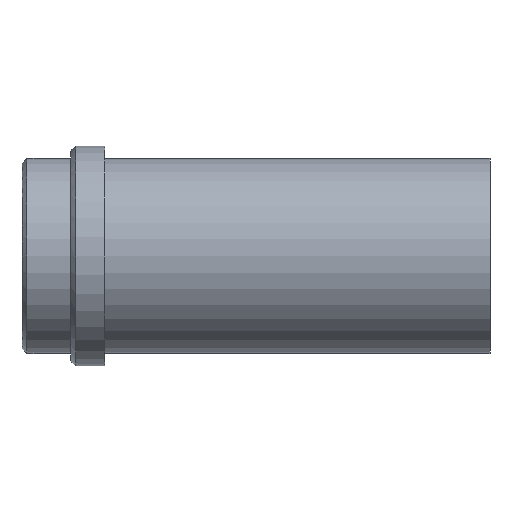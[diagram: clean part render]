
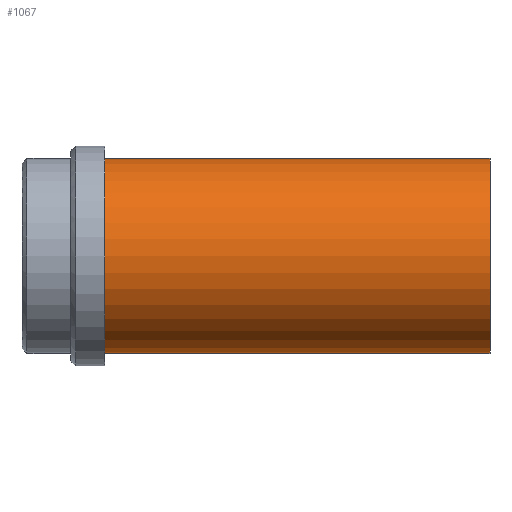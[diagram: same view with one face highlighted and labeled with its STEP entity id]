
A CAD part, front view. The second image highlights one B-rep face of the part: STEP entity #1067.
In plain terms, the highlighted cylindrical face has radius 20 mm (diameter 40 mm), a partial arc.
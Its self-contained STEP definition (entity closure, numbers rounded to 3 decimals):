
#953=CARTESIAN_POINT('Vertex',(0.,0.,-20.)) ;
#958=CARTESIAN_POINT('Axis2P3D Location',(0.,0.,0.)) ;
#962=CARTESIAN_POINT('Vertex',(0.,-20.,0.)) ;
#965=CARTESIAN_POINT('Axis2P3D Location',(0.,0.,0.)) ;
#969=CARTESIAN_POINT('Vertex',(0.,0.,20.)) ;
#995=CARTESIAN_POINT('Vertex',(79.,0.,20.)) ;
#998=CARTESIAN_POINT('Axis2P3D Location',(79.,0.,0.)) ;
#1002=CARTESIAN_POINT('Vertex',(79.,-20.,0.)) ;
#1005=CARTESIAN_POINT('Axis2P3D Location',(79.,0.,0.)) ;
#1009=CARTESIAN_POINT('Vertex',(79.,0.,-20.)) ;
#1035=CARTESIAN_POINT('Line Origine',(79.,0.,20.)) ;
#1040=CARTESIAN_POINT('Line Origine',(79.,0.,-20.)) ;
#1054=CARTESIAN_POINT('Axis2P3D Location',(79.,0.,0.)) ;
#959=DIRECTION('Axis2P3D Direction',(1.,0.,-0.)) ;
#966=DIRECTION('Axis2P3D Direction',(1.,0.,-0.)) ;
#999=DIRECTION('Axis2P3D Direction',(1.,0.,-0.)) ;
#1006=DIRECTION('Axis2P3D Direction',(1.,0.,-0.)) ;
#1036=DIRECTION('Vector Direction',(-1.,0.,0.)) ;
#1041=DIRECTION('Vector Direction',(-1.,0.,0.)) ;
#1055=DIRECTION('Axis2P3D Direction',(-1.,-0.,-0.)) ;
#1056=DIRECTION('Axis2P3D XDirection',(0.,0.,-1.)) ;
#960=AXIS2_PLACEMENT_3D('Circle Axis2P3D',#958,#959,$) ;
#967=AXIS2_PLACEMENT_3D('Circle Axis2P3D',#965,#966,$) ;
#1000=AXIS2_PLACEMENT_3D('Circle Axis2P3D',#998,#999,$) ;
#1007=AXIS2_PLACEMENT_3D('Circle Axis2P3D',#1005,#1006,$) ;
#1057=AXIS2_PLACEMENT_3D('Cylinder Axis2P3D',#1054,#1055,#1056) ;
#1060=ORIENTED_EDGE('',*,*,#1044,.T.) ;
#1061=ORIENTED_EDGE('',*,*,#1011,.F.) ;
#1062=ORIENTED_EDGE('',*,*,#1004,.F.) ;
#1063=ORIENTED_EDGE('',*,*,#1039,.T.) ;
#1064=ORIENTED_EDGE('',*,*,#971,.T.) ;
#1065=ORIENTED_EDGE('',*,*,#964,.T.) ;
#1037=VECTOR('Line Direction',#1036,1.) ;
#1042=VECTOR('Line Direction',#1041,1.) ;
#1067=ADVANCED_FACE('358-32X96',(#1066),#1058,.T.) ;
#961=CIRCLE('generated circle',#960,20.) ;
#968=CIRCLE('generated circle',#967,20.) ;
#1001=CIRCLE('generated circle',#1000,20.) ;
#1008=CIRCLE('generated circle',#1007,20.) ;
#1058=CYLINDRICAL_SURFACE('generated cylinder',#1057,20.) ;
#964=EDGE_CURVE('',#963,#954,#961,.T.) ;
#971=EDGE_CURVE('',#970,#963,#968,.T.) ;
#1004=EDGE_CURVE('',#996,#1003,#1001,.T.) ;
#1011=EDGE_CURVE('',#1003,#1010,#1008,.T.) ;
#1039=EDGE_CURVE('',#996,#970,#1038,.T.) ;
#1044=EDGE_CURVE('',#954,#1010,#1043,.F.) ;
#1059=EDGE_LOOP('',(#1060,#1061,#1062,#1063,#1064,#1065)) ;
#1066=FACE_OUTER_BOUND('',#1059,.T.) ;
#1038=LINE('Line',#1035,#1037) ;
#1043=LINE('Line',#1040,#1042) ;
#954=VERTEX_POINT('',#953) ;
#963=VERTEX_POINT('',#962) ;
#970=VERTEX_POINT('',#969) ;
#996=VERTEX_POINT('',#995) ;
#1003=VERTEX_POINT('',#1002) ;
#1010=VERTEX_POINT('',#1009) ;
